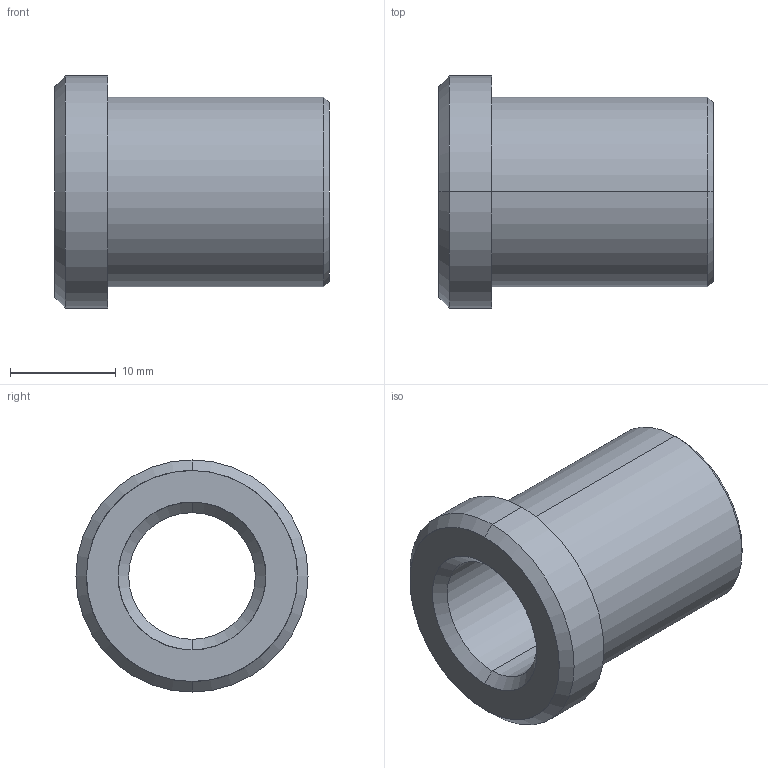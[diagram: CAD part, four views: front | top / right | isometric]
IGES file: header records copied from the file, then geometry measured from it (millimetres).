
Start section: START RECORD GO HERE.
Global section: file name: 353-12X26.igs; native system: DASSAULT SYSTEMES CATIA V5 R20 - www.3ds.com; preprocessor: CATIA Version 5 Release 20 ; author: Utente; organization: NB04-ASUS; date: 20210421.142221; units: millimetre
Bounding box: 26 x 22 x 22 mm (x, y, z)
Surface area: 2952.2 mm2 (no closed solid volume)
Topology: 0 solids, 0 shells, 17 faces, 108 edges, 108 vertices
Faces by surface type: revolution 14, plane 3
